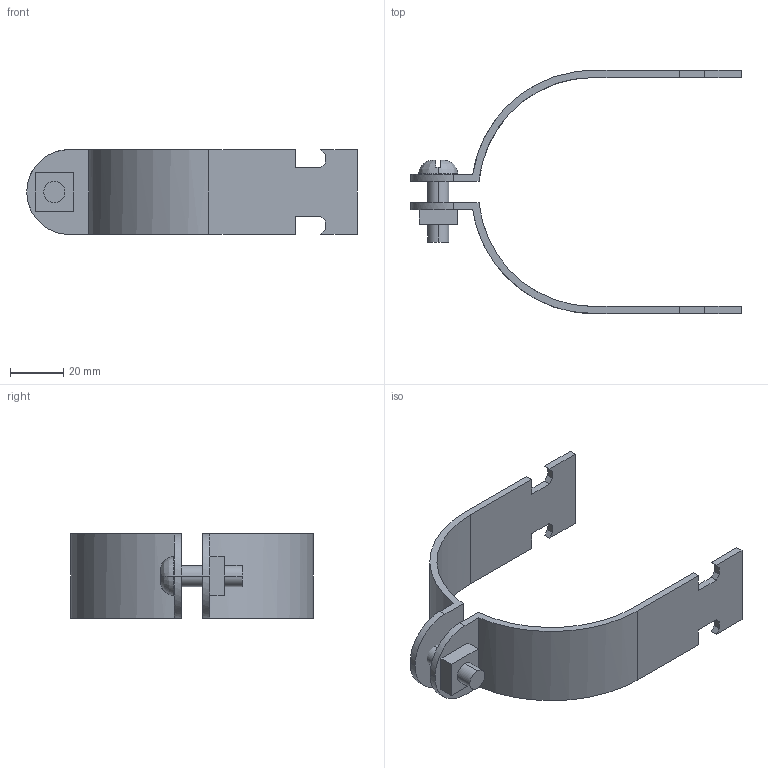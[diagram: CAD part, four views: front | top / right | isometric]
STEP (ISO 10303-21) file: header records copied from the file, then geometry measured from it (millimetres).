
FILE_DESCRIPTION(('TurboCAD Mac Pro'),'Build 980');
FILE_NAME('P2049.stp',' ',(''),(''),'ACIS Interop','IMSI','TurboCAD Mac Pro BY IMSI, INCORPORATED');
FILE_SCHEMA(('automotive_design'));
Length unit declared in the file: inch
Products named in the file (5): 1; 2; 3; 4; 5
Bounding box: 123.83 x 91.05 x 31.74 mm (x, y, z)
Volume: 25736.4 mm3; surface area: 21140.5 mm2
Topology: 4 solids, 4 shells, 75 faces, 194 edges, 128 vertices
Faces by surface type: plane 51, bspline 24
Entity records: 3631 total; most frequent: CARTESIAN_POINT 1138, ORIENTED_EDGE 388, DIRECTION 262, EDGE_CURVE 194, LINE 142, VECTOR 142, VERTEX_POINT 128, STYLED_ITEM 91
